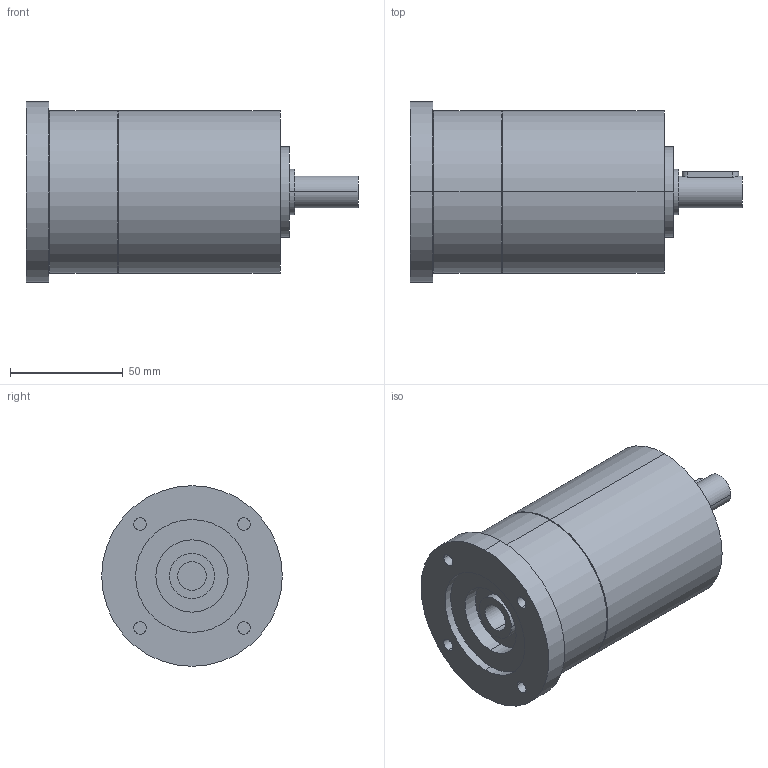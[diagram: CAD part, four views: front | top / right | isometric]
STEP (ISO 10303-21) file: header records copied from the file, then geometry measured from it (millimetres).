
FILE_DESCRIPTION(('CoCreate Modeling STEP Export'),'2;1');
FILE_NAME('GPT75_ig-9-12-16-20-25-28-35-40-50-70-100_14_B14T_12.7_P13.stp','2014-08-27T13:09:07',(''),(''),'CoCreate Modeling STEP processor for AP214 (Solid Model)','CoCreate Modeling 16.00C 25-Feb-2009 (C) Parametric Technology GmbH','');
FILE_SCHEMA(('AUTOMOTIVE_DESIGN { 1 0 10303 214 1 1 1 1 }'));
Length unit declared in the file: millimetre
Products named in the file (2): GPT75_ig-9-12-16-20-25-28-35-40-50-70-100_14_B14T_12.7_P13
Assembly tree (1 placements, depth 2):
  GPT75_ig-9-12-16-20-25-28-35-40-50-70-100_14_B14T_12.7_P13
    GPT75_ig-9-12-16-20-25-28-35-40-50-70-100_14_B14T_12.7_P13
Bounding box: 147 x 80 x 80 mm (x, y, z)
Volume: 460892 mm3; surface area: 42297.4 mm2
Topology: 1 solids, 1 shells, 67 faces, 150 edges, 103 vertices
Faces by surface type: cylinder 40, plane 23, cone 4
Entity records: 1958 total; most frequent: CARTESIAN_POINT 627, ORIENTED_EDGE 300, DIRECTION 222, EDGE_CURVE 150, VERTEX_POINT 103, AXIS2_PLACEMENT_3D 86, EDGE_LOOP 85, FACE_OUTER_BOUND 67
